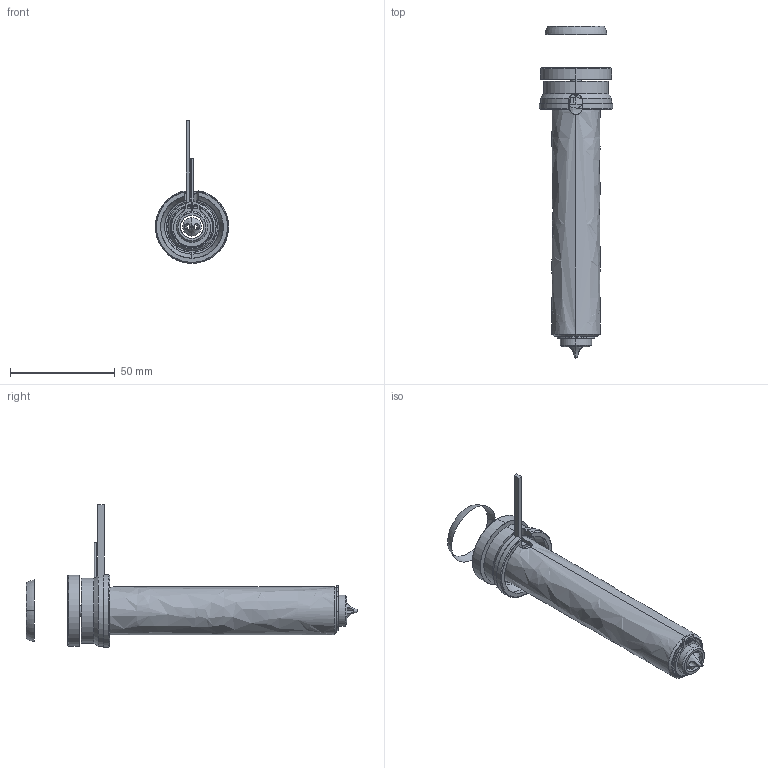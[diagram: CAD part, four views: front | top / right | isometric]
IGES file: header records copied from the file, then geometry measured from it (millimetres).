
Start section: SolidWorks IGES file using analytic representation for surfaces
Global section: file name: C:\Users\luca.EMPAD\Desktop\TEM\UGDL2603-M-A [Øf=1.0 ØC=5.0].IGS; native system: SolidWorks 2012; preprocessor: SolidWorks 2012; author: luca; date: 120330.144838; units: millimetre
Bounding box: 35 x 158.84 x 68.3 mm (x, y, z)
Surface area: 33431.3 mm2 (no closed solid volume)
Topology: 0 solids, 0 shells, 134 faces, 2202 edges, 2198 vertices
Faces by surface type: revolution 76, bspline 58
